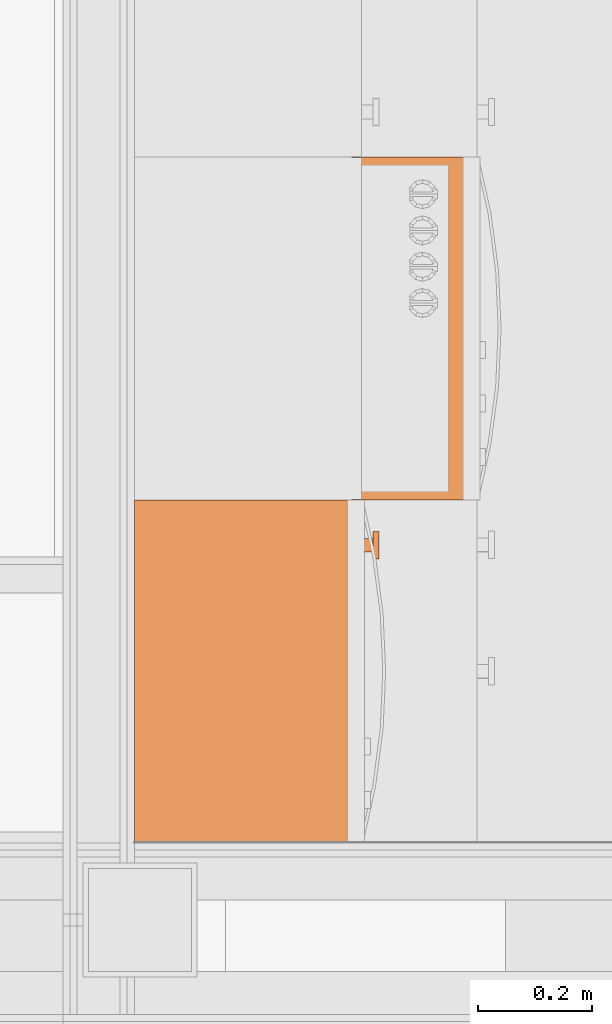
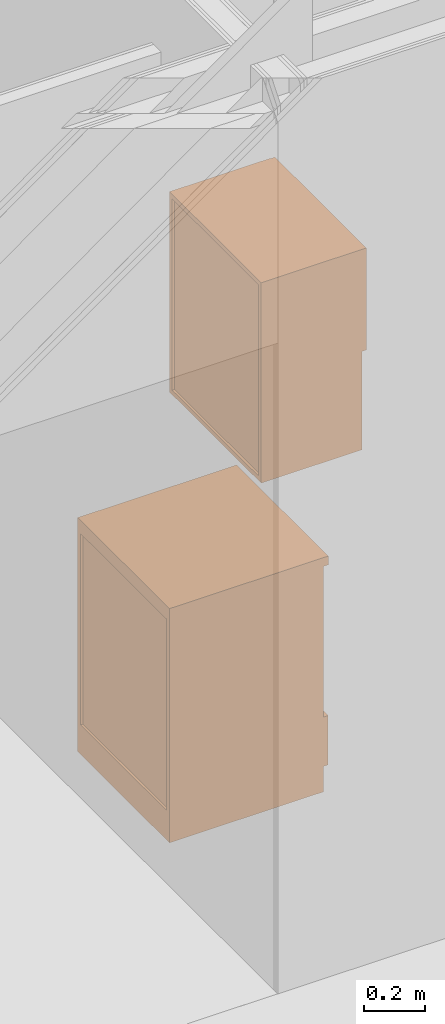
# One storey, part 153 of 165: 2 proxies.
"""IFC2X3 building model written with IfcOpenShell, lengths in millimetres."""

from ifc_helpers import new_model, entity, si_unit, converted_unit, derived_unit, money_unit, direction, frame, origin_with_axes, place, context, subcontext, project, spatial, faceted_brep, type_object, element, save


model = new_model("IFC2X3")

# Units and contexts
model_context = context("Model", 3, precision=0.01, world=origin_with_axes(), true_north=direction((0.0, 1.0)))
body_context = subcontext(model_context, "Body", "Model", "MODEL_VIEW")
ifc_project = project(units=[si_unit("LENGTHUNIT", "METRE", prefix="MILLI"), si_unit("AREAUNIT", "SQUARE_METRE"), si_unit("VOLUMEUNIT", "CUBIC_METRE"), converted_unit("PLANEANGLEUNIT", "DEGREE", entity("IfcPlaneAngleMeasure", 0.0174532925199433), si_unit("PLANEANGLEUNIT", "RADIAN"), dimensions=[0, 0, 0, 0, 0, 0, 0]), money_unit("EUR"), converted_unit("TIMEUNIT", "Year", entity("IfcTimeMeasure", 31556926.0), si_unit("TIMEUNIT", "SECOND"), dimensions=[0, 0, 1, 0, 0, 0, 0]), si_unit("MASSUNIT", "GRAM", prefix="KILO"), si_unit("THERMODYNAMICTEMPERATUREUNIT", "DEGREE_CELSIUS"), si_unit("LUMINOUSINTENSITYUNIT", "LUMEN"), si_unit("ENERGYUNIT", "JOULE", prefix="MEGA"), derived_unit("THERMALCONDUCTANCEUNIT", [(si_unit("POWERUNIT", "WATT"), 1), (si_unit("LENGTHUNIT", "METRE"), -1), (si_unit("THERMODYNAMICTEMPERATUREUNIT", "KELVIN"), -1)]), derived_unit("SPECIFICHEATCAPACITYUNIT", [(si_unit("ENERGYUNIT", "JOULE"), 1), (si_unit("MASSUNIT", "GRAM", prefix="KILO"), -1), (si_unit("THERMODYNAMICTEMPERATUREUNIT", "KELVIN"), -1)]), derived_unit("MASSDENSITYUNIT", [(si_unit("MASSUNIT", "GRAM", prefix="KILO"), 1), (si_unit("VOLUMEUNIT", "CUBIC_METRE"), -1)])], contexts=[model_context])

# Site, building, storey
site_placement = place(None, origin_with_axes())
site = spatial("IfcSite", under=ifc_project, at=site_placement, Name="Site", CompositionType="ELEMENT")
building_placement = place(site_placement, origin_with_axes())
building = spatial("IfcBuilding", under=site, at=building_placement, Name="Naam gebouw", CompositionType="ELEMENT")
storey_placement = place(building_placement, origin_with_axes())
storey = spatial("IfcBuildingStorey", under=building, at=storey_placement, Name="Begane grond", CompositionType="ELEMENT", Elevation=0.0)

# Proxies
building_element_proxy_type_1 = type_object("IfcBuildingElementProxyType", Name="Onderkast recht 26", PredefinedType="NOTDEFINED")
proxy_1_placement = place(storey_placement, frame((20900.00167438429, 12144.99881672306, 0.0), z_axis=(0.0, 0.0, 1.0), x_axis=(0.0, 1.0, 0.0)))
element("IfcBuildingElementProxy", 1, at=proxy_1_placement, inside=storey, type_object=building_element_proxy_type_1, Name="_Leeg", context=body_context, shape_type="Brep", body=[
    faceted_brep([(0.0, -600.0, 900.0), (0.0, -600.0, 935.0), (-600.0, -600.0, 935.0), (-600.0, -600.0, 900.0), (0.0, 0.0, 900.0), (0.0, 0.0, 935.0), (-600.0, 0.0, 935.0), (-600.0, 0.0, 900.0)], [[[0, 1, 2, 3]], [[4, 5, 1, 0]], [[1, 5, 6, 2]], [[3, 2, 6, 7]], [[0, 3, 7, 4]], [[7, 6, 5, 4]]]),
    faceted_brep([(-577.0, -582.0, 123.0), (-577.0, -18.00000000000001, 123.0), (-23.0, -18.00000000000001, 123.0), (-23.0, -582.0, 123.0), (-577.0, -582.0, 133.0), (-577.0, -18.00000000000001, 133.0), (-23.0, -18.00000000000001, 133.0), (-23.0, -582.0, 133.0)], [[[0, 1, 2, 3]], [[0, 4, 5, 1]], [[1, 5, 6, 2]], [[2, 6, 7, 3]], [[3, 7, 4, 0]], [[7, 6, 5, 4]]]),
    faceted_brep([(-43.0, -582.0, 133.0), (-43.0, -18.00000000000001, 133.0), (-23.0, -18.00000000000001, 133.0), (-23.0, -582.0, 133.0), (-43.0, -582.0, 284.9999859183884), (-43.0, -18.00000000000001, 284.9999859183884), (-23.0, -18.00000000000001, 284.9999859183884), (-23.0, -582.0, 284.9999859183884)], [[[0, 1, 2, 3]], [[0, 4, 5, 1]], [[1, 5, 6, 2]], [[2, 6, 7, 3]], [[3, 7, 4, 0]], [[7, 6, 5, 4]]]),
    faceted_brep([(-577.0, -582.0, 133.0), (-577.0, -18.00000000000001, 133.0), (-556.9999999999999, -18.00000000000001, 133.0), (-556.9999999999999, -582.0, 133.0), (-577.0, -582.0, 284.9999859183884), (-577.0, -18.00000000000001, 284.9999859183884), (-556.9999999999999, -18.00000000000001, 284.9999859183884), (-556.9999999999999, -582.0, 284.9999859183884)], [[[0, 1, 2, 3]], [[0, 4, 5, 1]], [[1, 5, 6, 2]], [[2, 6, 7, 3]], [[3, 7, 4, 0]], [[7, 6, 5, 4]]]),
    faceted_brep([(-556.9999999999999, -33.00000000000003, 133.0), (-556.9999999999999, -23.00000000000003, 133.0), (-43.0, -23.00000000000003, 133.0), (-43.0, -33.00000000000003, 133.0), (-556.9999999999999, -33.00000000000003, 284.9999859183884), (-556.9999999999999, -23.00000000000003, 284.9999859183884), (-43.0, -23.00000000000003, 284.9999859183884), (-43.0, -33.00000000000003, 284.9999859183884)], [[[0, 1, 2, 3]], [[0, 4, 5, 1]], [[1, 5, 6, 2]], [[2, 6, 7, 3]], [[3, 7, 4, 0]], [[7, 6, 5, 4]]]),
    faceted_brep([(-18.0, -582.0, 289.9999859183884), (-18.0, -582.0, 307.9999859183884), (-582.0, -582.0, 307.9999859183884), (-582.0, -582.0, 289.9999859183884), (-18.0, -18.0, 289.9999859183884), (-18.0, -18.0, 307.9999859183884), (-582.0, -18.0, 307.9999859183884), (-582.0, -18.0, 289.9999859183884)], [[[0, 1, 2, 3]], [[4, 5, 1, 0]], [[1, 5, 6, 2]], [[3, 2, 6, 7]], [[0, 3, 7, 4]], [[7, 6, 5, 4]]]),
    faceted_brep([(-1.0, -582.0, 101.0), (-1.0, -600.0, 101.0), (-599.0, -600.0, 101.0), (-599.0, -582.0, 101.0), (-1.0, -582.0, 297.9999859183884), (-1.0, -600.0, 297.9999859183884), (-599.0, -600.0, 297.9999859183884), (-599.0, -582.0, 297.9999859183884)], [[[0, 1, 2, 3]], [[4, 5, 1, 0]], [[1, 5, 6, 2]], [[3, 2, 6, 7]], [[0, 3, 7, 4]], [[7, 6, 5, 4]]]),
    faceted_brep([(-18.0, -582.0, 100.0), (-18.0, -582.0, 118.0), (-582.0, -582.0, 118.0), (-582.0, -582.0, 100.0), (-18.0, 0.0, 100.0), (-18.0, 0.0, 118.0), (-582.0, 0.0, 118.0), (-582.0, 0.0, 100.0)], [[[0, 1, 2, 3]], [[4, 5, 1, 0]], [[1, 5, 6, 2]], [[3, 2, 6, 7]], [[0, 3, 7, 4]], [[7, 6, 5, 4]]]),
    faceted_brep([(-18.0, -582.0, 882.0), (-582.0, -582.0, 882.0), (-582.0, -522.0, 882.0), (-18.0, -522.0, 882.0), (-18.0, -582.0, 900.0), (-582.0, -582.0, 900.0), (-582.0, -522.0, 900.0), (-18.0, -522.0, 900.0)], [[[0, 1, 2, 3]], [[4, 5, 1, 0]], [[1, 5, 6, 2]], [[3, 2, 6, 7]], [[0, 3, 7, 4]], [[7, 6, 5, 4]]]),
    faceted_brep([(-582.0, 0.0, 882.0), (-18.0, 0.0, 882.0), (-18.0, -60.0, 882.0), (-582.0, -60.0, 882.0), (-582.0, 0.0, 900.0), (-18.0, 0.0, 900.0), (-18.0, -60.0, 900.0), (-582.0, -60.0, 900.0)], [[[0, 1, 2, 3]], [[4, 5, 1, 0]], [[1, 5, 6, 2]], [[3, 2, 6, 7]], [[0, 3, 7, 4]], [[7, 6, 5, 4]]]),
    faceted_brep([(0.0, 0.0, 100.0), (0.0, 0.0, 900.0), (0.0, -582.0, 900.0), (0.0, -582.0, 100.0), (-18.0, 0.0, 100.0), (-18.0, 0.0, 900.0), (-18.0, -582.0, 900.0), (-18.0, -582.0, 100.0)], [[[0, 1, 2, 3]], [[4, 5, 1, 0]], [[1, 5, 6, 2]], [[3, 2, 6, 7]], [[0, 3, 7, 4]], [[7, 6, 5, 4]]]),
    faceted_brep([(-600.0, -582.0, 100.0), (-600.0, -582.0, 900.0), (-600.0, 0.0, 900.0), (-600.0, 0.0, 100.0), (-582.0, -582.0, 100.0), (-582.0, -582.0, 900.0), (-582.0, 0.0, 900.0), (-582.0, 0.0, 100.0)], [[[0, 1, 2, 3]], [[4, 5, 1, 0]], [[1, 5, 6, 2]], [[3, 2, 6, 7]], [[0, 3, 7, 4]], [[7, 6, 5, 4]]]),
    faceted_brep([(-582.0, -9.0, 118.0), (-582.0, -9.0, 882.0), (-18.00000000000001, -9.0, 882.0), (-18.00000000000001, -9.0, 118.0), (-582.0, -18.0, 118.0), (-582.0, -18.0, 882.0), (-18.00000000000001, -18.0, 882.0), (-18.00000000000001, -18.0, 118.0)], [[[0, 1, 2, 3]], [[4, 5, 1, 0]], [[1, 5, 6, 2]], [[3, 2, 6, 7]], [[0, 3, 7, 4]], [[7, 6, 5, 4]]]),
    faceted_brep([(0.0, -582.0, 0.0), (0.0, -582.0, 100.0), (-600.0, -582.0, 100.0), (-600.0, -582.0, 0.0), (0.0, 0.0, 0.0), (0.0, 0.0, 100.0), (-600.0, 0.0, 100.0), (-600.0, 0.0, 0.0)], [[[0, 1, 2, 3]], [[4, 5, 1, 0]], [[1, 5, 6, 2]], [[3, 2, 6, 7]], [[0, 3, 7, 4]], [[7, 6, 5, 4]]]),
])
building_element_proxy_type_2 = type_object("IfcBuildingElementProxyType", Name="Bovenkast recht 26", PredefinedType="NOTDEFINED")
proxy_2_placement = place(storey_placement, frame((20900.00167438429, 10944.99881672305, 300.0000000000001), z_axis=(0.0, 0.0, 1.0), x_axis=(0.0, 1.0, 0.0)))
element("IfcBuildingElementProxy", 2, at=proxy_2_placement, inside=storey, type_object=building_element_proxy_type_2, Name="_Leeg", context=body_context, shape_type="Brep", body=[
    faceted_brep([(18.0, -380.0, 1891.0), (582.0, -380.0, 1891.0), (582.0, -380.0, 1909.0), (18.0, -380.0, 1909.0), (18.0, -18.0, 1891.0), (582.0, -18.0, 1891.0), (582.0, -18.0, 1909.0), (18.0, -18.0, 1909.0)], [[[0, 1, 2, 3]], [[0, 4, 5, 1]], [[1, 5, 6, 2]], [[3, 2, 6, 7]], [[4, 0, 3, 7]], [[5, 4, 7, 6]]]),
    faceted_brep([(532.8176930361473, -398.0, 1967.916221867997), (532.2763114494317, -398.0, 1965.895758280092), (531.392304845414, -398.0, 1964.0), (530.1925333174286, -398.0, 1962.286548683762), (528.7134513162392, -398.0, 1960.807466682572), (527.0000000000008, -398.0, 1959.607695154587), (525.1042417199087, -398.0, 1958.723688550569), (523.0837781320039, -398.0, 1958.182306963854), (521.0000000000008, -398.0, 1958.0), (518.9162218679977, -398.0, 1958.182306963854), (516.8957582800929, -398.0, 1958.723688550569), (515.0000000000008, -398.0, 1959.607695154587), (513.2865486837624, -398.0, 1960.807466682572), (511.807466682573, -398.0, 1962.286548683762), (510.6076951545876, -398.0, 1964.0), (509.7236885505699, -398.0, 1965.895758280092), (509.1823069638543, -398.0, 1967.916221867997), (509.0000000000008, -398.0, 1970.0), (509.1823069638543, -398.0, 1972.083778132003), (509.7236885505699, -398.0, 1974.104241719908), (510.6076951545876, -398.0, 1976.0), (511.807466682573, -398.0, 1977.713451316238), (513.2865486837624, -398.0, 1979.192533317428), (515.0000000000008, -398.0, 1980.392304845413), (516.8957582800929, -398.0, 1981.276311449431), (518.9162218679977, -398.0, 1981.817693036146), (521.0000000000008, -398.0, 1982.0), (523.0837781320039, -398.0, 1981.817693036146), (525.1042417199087, -398.0, 1981.276311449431), (527.0000000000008, -398.0, 1980.392304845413), (528.7134513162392, -398.0, 1979.192533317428), (530.1925333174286, -398.0, 1977.713451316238), (531.3923048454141, -398.0, 1976.0), (532.2763114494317, -398.0, 1974.104241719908), (532.8176930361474, -398.0, 1972.083778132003), (533.0000000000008, -398.0, 1970.0), (532.8176930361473, -418.0000000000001, 1967.916221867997), (532.2763114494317, -418.0000000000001, 1965.895758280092), (531.392304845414, -418.0000000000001, 1964.0), (530.1925333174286, -418.0000000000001, 1962.286548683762), (528.7134513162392, -418.0000000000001, 1960.807466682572), (527.0000000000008, -418.0000000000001, 1959.607695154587), (525.1042417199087, -418.0000000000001, 1958.723688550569), (523.0837781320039, -418.0000000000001, 1958.182306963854), (521.0000000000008, -418.0000000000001, 1958.0), (518.9162218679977, -418.0000000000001, 1958.182306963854), (516.8957582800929, -418.0000000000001, 1958.723688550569), (515.0000000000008, -418.0000000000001, 1959.607695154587), (513.2865486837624, -418.0000000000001, 1960.807466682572), (511.807466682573, -418.0000000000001, 1962.286548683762), (510.6076951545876, -418.0000000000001, 1964.0), (509.7236885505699, -418.0000000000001, 1965.895758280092), (509.1823069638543, -418.0000000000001, 1967.916221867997), (509.0000000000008, -418.0000000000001, 1970.0), (509.1823069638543, -418.0000000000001, 1972.083778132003), (509.7236885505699, -418.0000000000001, 1974.104241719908), (510.6076951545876, -418.0000000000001, 1976.0), (511.807466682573, -418.0000000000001, 1977.713451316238), (513.2865486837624, -418.0000000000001, 1979.192533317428), (515.0000000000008, -418.0000000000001, 1980.392304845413), (516.8957582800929, -418.0000000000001, 1981.276311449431), (518.9162218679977, -418.0000000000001, 1981.817693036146), (521.0000000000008, -418.0000000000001, 1982.0), (523.0837781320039, -418.0000000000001, 1981.817693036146), (525.1042417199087, -418.0000000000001, 1981.276311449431), (527.0000000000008, -418.0000000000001, 1980.392304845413), (528.7134513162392, -418.0000000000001, 1979.192533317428), (530.1925333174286, -418.0000000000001, 1977.713451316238), (531.3923048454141, -418.0000000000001, 1976.0), (532.2763114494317, -418.0000000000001, 1974.104241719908), (532.8176930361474, -418.0000000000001, 1972.083778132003), (533.0000000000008, -418.0000000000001, 1970.0)], [[[0, 1, 2, 3, 4, 5, 6, 7, 8, 9, 10, 11, 12, 13, 14, 15, 16, 17, 18, 19, 20, 21, 22, 23, 24, 25, 26, 27, 28, 29, 30, 31, 32, 33, 34, 35]], [[1, 0, 36, 37]], [[2, 1, 37, 38]], [[3, 2, 38, 39]], [[4, 3, 39, 40]], [[5, 4, 40, 41]], [[6, 5, 41, 42]], [[7, 6, 42, 43]], [[8, 7, 43, 44]], [[9, 8, 44, 45]], [[10, 9, 45, 46]], [[11, 10, 46, 47]], [[12, 11, 47, 48]], [[13, 12, 48, 49]], [[14, 13, 49, 50]], [[15, 14, 50, 51]], [[16, 15, 51, 52]], [[17, 16, 52, 53]], [[18, 17, 53, 54]], [[19, 18, 54, 55]], [[20, 19, 55, 56]], [[21, 20, 56, 57]], [[22, 21, 57, 58]], [[23, 22, 58, 59]], [[24, 23, 59, 60]], [[25, 24, 60, 61]], [[26, 25, 61, 62]], [[27, 26, 62, 63]], [[28, 27, 63, 64]], [[29, 28, 64, 65]], [[30, 29, 65, 66]], [[31, 30, 66, 67]], [[32, 31, 67, 68]], [[33, 32, 68, 69]], [[34, 33, 69, 70]], [[35, 34, 70, 71]], [[0, 35, 71, 36]], [[36, 71, 70, 69, 68, 67, 66, 65, 64, 63, 62, 61, 60, 59, 58, 57, 56, 55, 54, 53, 52, 51, 50, 49, 48, 47, 46, 45, 44, 43, 42, 41, 40, 39, 38, 37]]]),
    faceted_brep([(544.6353860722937, -418.0000000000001, 1965.832443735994), (543.5526228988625, -418.0000000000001, 1961.791516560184), (541.7846096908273, -418.0000000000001, 1958.0), (539.3850666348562, -418.0000000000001, 1954.573097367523), (536.4269026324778, -418.0000000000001, 1951.614933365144), (533.0000000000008, -418.0000000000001, 1949.215390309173), (529.2084834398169, -418.0000000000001, 1947.447377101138), (525.1675562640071, -418.0000000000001, 1946.364613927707), (521.0000000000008, -418.0000000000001, 1946.0), (516.8324437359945, -418.0000000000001, 1946.364613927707), (512.7915165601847, -418.0000000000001, 1947.447377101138), (509.0000000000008, -418.0000000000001, 1949.215390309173), (505.5730973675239, -418.0000000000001, 1951.614933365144), (502.6149333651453, -418.0000000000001, 1954.573097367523), (500.2153903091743, -418.0000000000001, 1958.0), (498.447377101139, -418.0000000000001, 1961.791516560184), (497.3646139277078, -418.0000000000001, 1965.832443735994), (497.0000000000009, -418.0000000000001, 1970.0), (497.3646139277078, -418.0000000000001, 1974.167556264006), (498.447377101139, -418.0000000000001, 1978.208483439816), (500.2153903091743, -418.0000000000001, 1982.0), (502.6149333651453, -418.0000000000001, 1985.426902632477), (505.5730973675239, -418.0000000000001, 1988.385066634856), (509.0000000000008, -418.0000000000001, 1990.784609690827), (512.7915165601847, -418.0000000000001, 1992.552622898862), (516.8324437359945, -418.0000000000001, 1993.635386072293), (521.0000000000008, -418.0000000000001, 1994.0), (525.1675562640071, -418.0000000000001, 1993.635386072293), (529.2084834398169, -418.0000000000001, 1992.552622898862), (533.0000000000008, -418.0000000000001, 1990.784609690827), (536.4269026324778, -418.0000000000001, 1988.385066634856), (539.3850666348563, -418.0000000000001, 1985.426902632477), (541.7846096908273, -418.0000000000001, 1982.0), (543.5526228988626, -418.0000000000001, 1978.208483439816), (544.6353860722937, -418.0000000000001, 1974.167556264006), (545.0000000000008, -418.0000000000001, 1970.0), (544.6353860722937, -428.0000000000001, 1965.832443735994), (543.5526228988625, -428.0000000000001, 1961.791516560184), (541.7846096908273, -428.0000000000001, 1958.0), (539.3850666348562, -428.0000000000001, 1954.573097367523), (536.4269026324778, -428.0000000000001, 1951.614933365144), (533.0000000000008, -428.0000000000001, 1949.215390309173), (529.2084834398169, -428.0000000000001, 1947.447377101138), (525.1675562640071, -428.0000000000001, 1946.364613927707), (521.0000000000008, -428.0000000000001, 1946.0), (516.8324437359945, -428.0000000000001, 1946.364613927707), (512.7915165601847, -428.0000000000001, 1947.447377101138), (509.0000000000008, -428.0000000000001, 1949.215390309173), (505.5730973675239, -428.0000000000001, 1951.614933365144), (502.6149333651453, -428.0000000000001, 1954.573097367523), (500.2153903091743, -428.0000000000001, 1958.0), (498.447377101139, -428.0000000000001, 1961.791516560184), (497.3646139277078, -428.0000000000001, 1965.832443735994), (497.0000000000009, -428.0000000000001, 1970.0), (497.3646139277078, -428.0000000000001, 1974.167556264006), (498.447377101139, -428.0000000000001, 1978.208483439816), (500.2153903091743, -428.0000000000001, 1982.0), (502.6149333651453, -428.0000000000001, 1985.426902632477), (505.5730973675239, -428.0000000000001, 1988.385066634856), (509.0000000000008, -428.0000000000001, 1990.784609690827), (512.7915165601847, -428.0000000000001, 1992.552622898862), (516.8324437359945, -428.0000000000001, 1993.635386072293), (521.0000000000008, -428.0000000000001, 1994.0), (525.1675562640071, -428.0000000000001, 1993.635386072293), (529.2084834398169, -428.0000000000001, 1992.552622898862), (533.0000000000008, -428.0000000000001, 1990.784609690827), (536.4269026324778, -428.0000000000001, 1988.385066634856), (539.3850666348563, -428.0000000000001, 1985.426902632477), (541.7846096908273, -428.0000000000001, 1982.0), (543.5526228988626, -428.0000000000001, 1978.208483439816), (544.6353860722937, -428.0000000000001, 1974.167556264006), (545.0000000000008, -428.0000000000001, 1970.0)], [[[0, 1, 2, 3, 4, 5, 6, 7, 8, 9, 10, 11, 12, 13, 14, 15, 16, 17, 18, 19, 20, 21, 22, 23, 24, 25, 26, 27, 28, 29, 30, 31, 32, 33, 34, 35]], [[1, 0, 36, 37]], [[2, 1, 37, 38]], [[3, 2, 38, 39]], [[4, 3, 39, 40]], [[5, 4, 40, 41]], [[6, 5, 41, 42]], [[7, 6, 42, 43]], [[8, 7, 43, 44]], [[9, 8, 44, 45]], [[10, 9, 45, 46]], [[11, 10, 46, 47]], [[12, 11, 47, 48]], [[13, 12, 48, 49]], [[14, 13, 49, 50]], [[15, 14, 50, 51]], [[16, 15, 51, 52]], [[17, 16, 52, 53]], [[18, 17, 53, 54]], [[19, 18, 54, 55]], [[20, 19, 55, 56]], [[21, 20, 56, 57]], [[22, 21, 57, 58]], [[23, 22, 58, 59]], [[24, 23, 59, 60]], [[25, 24, 60, 61]], [[26, 25, 61, 62]], [[27, 26, 62, 63]], [[28, 27, 63, 64]], [[29, 28, 64, 65]], [[30, 29, 65, 66]], [[31, 30, 66, 67]], [[32, 31, 67, 68]], [[33, 32, 68, 69]], [[34, 33, 69, 70]], [[35, 34, 70, 71]], [[0, 35, 71, 36]], [[36, 71, 70, 69, 68, 67, 66, 65, 64, 63, 62, 61, 60, 59, 58, 57, 56, 55, 54, 53, 52, 51, 50, 49, 48, 47, 46, 45, 44, 43, 42, 41, 40, 39, 38, 37]]]),
    faceted_brep([(1.0, -380.0, 1892.0), (599.0, -380.0, 1892.0), (599.0, -398.0, 1892.0), (1.0, -398.0, 1892.0), (1.0, -380.0, 2299.0), (599.0, -380.0, 2299.0), (599.0, -397.9999999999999, 2299.0), (1.0, -397.9999999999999, 2299.0)], [[[0, 1, 2, 3]], [[0, 4, 5, 1]], [[1, 5, 6, 2]], [[3, 2, 6, 7]], [[4, 0, 3, 7]], [[5, 4, 7, 6]]]),
    faceted_brep([(18.0, -380.0, 1500.0), (582.0, -380.0, 1500.0), (582.0, -380.0, 1518.0), (18.0, -380.0, 1518.0), (18.0, 0.0, 1500.0), (582.0, 0.0, 1500.0), (582.0, 0.0, 1518.0), (18.0, 0.0, 1518.0)], [[[0, 1, 2, 3]], [[0, 4, 5, 1]], [[1, 5, 6, 2]], [[3, 2, 6, 7]], [[4, 0, 3, 7]], [[5, 4, 7, 6]]]),
    faceted_brep([(18.0, -380.0, 2282.0), (582.0, -380.0, 2282.0), (582.0, -380.0, 2300.0), (18.0, -380.0, 2300.0), (18.0, 0.0, 2282.0), (582.0, 0.0, 2282.0), (582.0, 0.0, 2300.0), (18.0, 0.0, 2300.0)], [[[0, 1, 2, 3]], [[0, 4, 5, 1]], [[1, 5, 6, 2]], [[3, 2, 6, 7]], [[4, 0, 3, 7]], [[5, 4, 7, 6]]]),
    faceted_brep([(0.0, 0.0, 1500.0), (0.0, -380.0, 1500.0), (0.0, -380.0, 2300.0), (0.0, 0.0, 2300.0), (18.0, 0.0, 1500.0), (18.0, -380.0, 1500.0), (18.0, -380.0, 2300.0), (18.0, 0.0, 2300.0)], [[[0, 1, 2, 3]], [[0, 4, 5, 1]], [[1, 5, 6, 2]], [[3, 2, 6, 7]], [[4, 0, 3, 7]], [[5, 4, 7, 6]]]),
    faceted_brep([(600.0, -380.0, 1500.0), (600.0, 0.0, 1500.0), (600.0, 0.0, 2300.0), (600.0, -380.0, 2300.0), (582.0, -380.0, 1500.0), (582.0, 0.0, 1500.0), (582.0, 0.0, 2300.0), (582.0, -380.0, 2300.0)], [[[0, 1, 2, 3]], [[0, 4, 5, 1]], [[1, 5, 6, 2]], [[3, 2, 6, 7]], [[4, 0, 3, 7]], [[5, 4, 7, 6]]]),
    faceted_brep([(582.0, -9.0, 1518.0), (18.00000000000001, -9.0, 1518.0), (18.00000000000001, -9.0, 2282.0), (582.0, -9.0, 2282.0), (582.0, -18.0, 1518.0), (18.00000000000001, -18.0, 1518.0), (18.00000000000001, -18.0, 2282.0), (582.0, -18.0, 2282.0)], [[[0, 1, 2, 3]], [[0, 4, 5, 1]], [[1, 5, 6, 2]], [[3, 2, 6, 7]], [[4, 0, 3, 7]], [[5, 4, 7, 6]]]),
])

save(model, "model.ifc")
